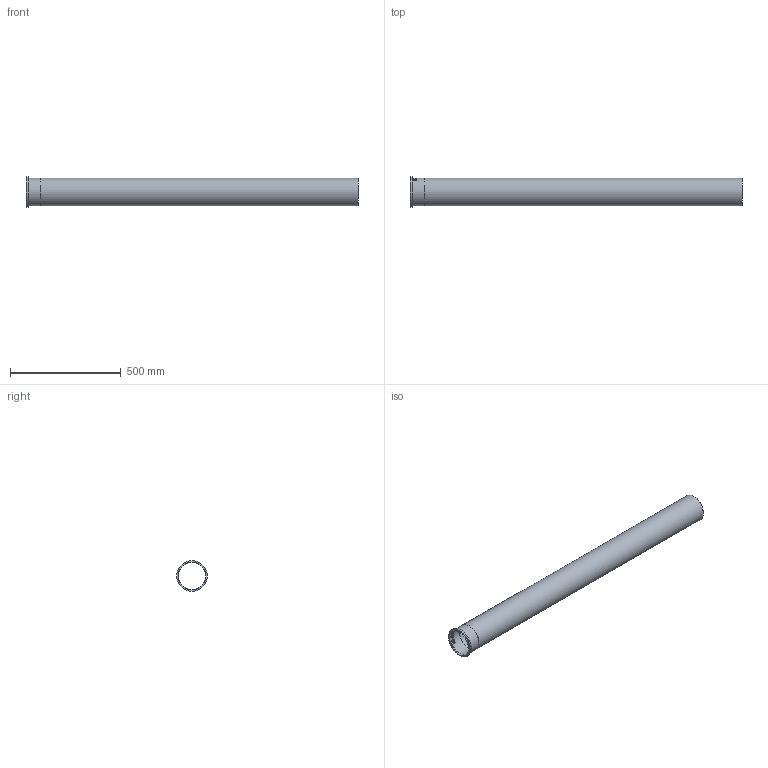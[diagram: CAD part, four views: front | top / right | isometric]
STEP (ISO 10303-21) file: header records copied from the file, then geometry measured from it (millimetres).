
FILE_DESCRIPTION((''),'2;1');
FILE_NAME('I:\WATTS\3D_CAD\3D_CAD_Models\Blucher_Drains\P_StraightPipe\WebsiteFiles\3D\STEP\P5-4.9-316.stp','2009-12-02T14:26:57',('menesek'),(''),'Autodesk Inventor 2010','Autodesk Inventor 2010','');
FILE_SCHEMA(('AUTOMOTIVE_DESIGN { 1 0 10303 214 1 1 1 1 }'));
Length unit declared in the file: inch
Products named in the file (1): P5-4.9-316
Bounding box: 1500 x 139.95 x 139.95 mm (x, y, z)
Volume: 624920.8 mm3; surface area: 1175845.5 mm2
Topology: 1 solids, 1 shells, 109 faces, 285 edges, 190 vertices
Faces by surface type: plane 59, bspline 34, cylinder 16
Full cylindrical faces by diameter (mm): 122.936 x1, 124.968 x1, 125.984 x2, 139.954 x1
Entity records: 13939 total; most frequent: CARTESIAN_POINT 11561, ORIENTED_EDGE 548, DIRECTION 356, EDGE_CURVE 274, VERTEX_POINT 186, EDGE_LOOP 128, AXIS2_PLACEMENT_3D 120, VECTOR 116
